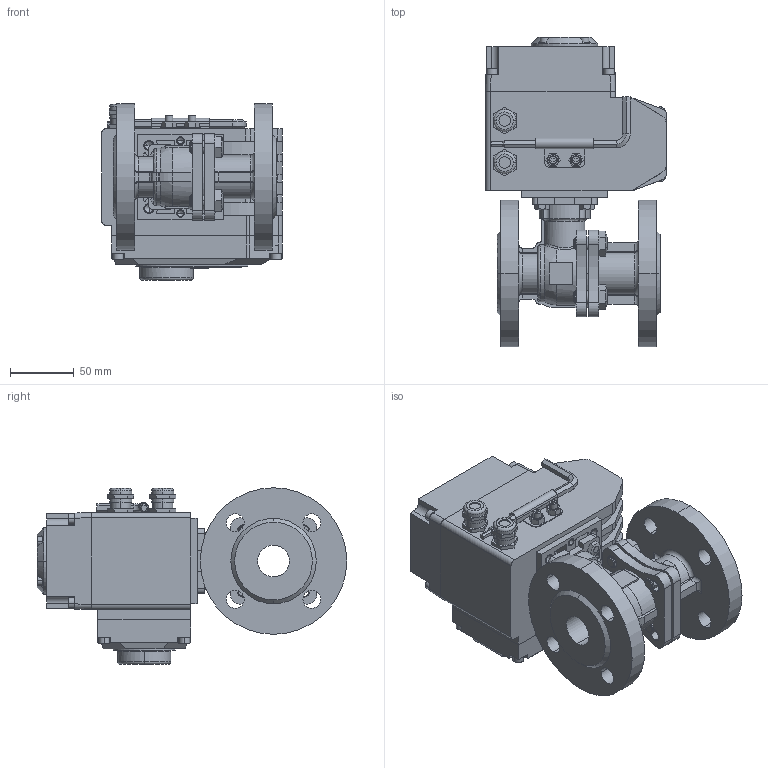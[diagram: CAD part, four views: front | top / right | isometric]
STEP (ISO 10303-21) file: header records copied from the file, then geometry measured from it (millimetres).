
FILE_DESCRIPTION((''),'2;1');
FILE_NAME('BV-22F_EAR_T_ASM','2025-03-03T',('USER'),(''),'PRO/ENGINEER BY PARAMETRIC TECHNOLOGY CORPORATION, 2011220','PRO/ENGINEER BY PARAMETRIC TECHNOLOGY CORPORATION, 2011220','');
FILE_SCHEMA(('CONFIG_CONTROL_DESIGN'));
Length unit declared in the file: millimetre
Products named in the file (15): KORPUS_KRAN_FL; B-7798-M10-20; SB_KRAN_FL_ASM; DET_1; V-11738-M5; V-11738-M4; DET_2; KREPLENIE; KLUCH; DET_3; G-5915-M6; ELECTROPRIVOD_ASM; ELECTROPRIVOD_WITH_DISPLAY_ASM; B-7798-M6-20; BV-22F_EAR_T_ASM
Assembly tree (31 placements, depth 4):
  BV-22F_EAR_T_ASM
    SB_KRAN_FL_ASM
      KORPUS_KRAN_FL
      B-7798-M10-20  x4
    ELECTROPRIVOD_WITH_DISPLAY_ASM
      ELECTROPRIVOD_ASM
        DET_1
        V-11738-M5  x8
        V-11738-M4  x4
        DET_2
        KREPLENIE
        KLUCH
        DET_3
        G-5915-M6  x2
    B-7798-M6-20  x4
Bounding box: 142 x 243 x 138.5 mm (x, y, z)
Volume: 1802150.5 mm3; surface area: 262979.6 mm2
Topology: 28 solids, 68 shells, 1415 faces, 3632 edges, 2368 vertices
Faces by surface type: plane 868, cylinder 411, cone 90, torus 29, bspline 14, extrusion 3
Entity records: 36039 total; most frequent: CARTESIAN_POINT 7491, DIRECTION 5919, ORIENTED_EDGE 5752, EDGE_CURVE 2924, VECTOR 2065, LINE 2062, AXIS2_PLACEMENT_3D 1927, VERTEX_POINT 1924
